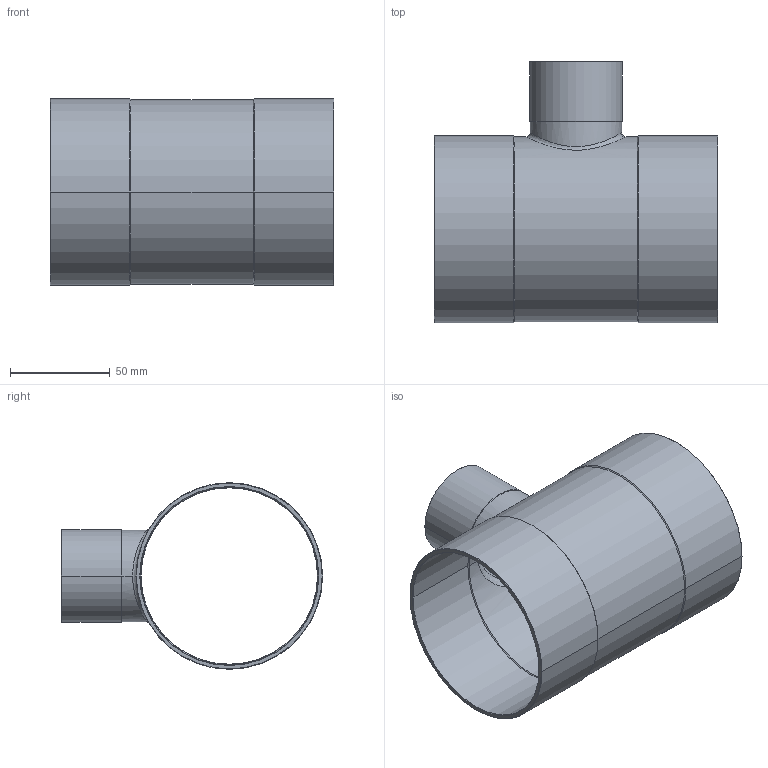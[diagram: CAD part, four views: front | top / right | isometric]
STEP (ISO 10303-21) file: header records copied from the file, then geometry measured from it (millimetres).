
FILE_DESCRIPTION((''),'2;1');
FILE_NAME('G:\Technics\CAD\Bauteile\15130\15130894289.stp','2005-11-02T10:20:03',('boden'),(''),'Autodesk Inventor 8','Autodesk Inventor 8','');
FILE_SCHEMA(('AUTOMOTIVE_DESIGN { 1 0 10303 214 1 1 1 1 }'));
Length unit declared in the file: millimetre
Products named in the file (1): 15130894289
Bounding box: 142 x 130.7 x 93.4 mm (x, y, z)
Volume: 93985.9 mm3; surface area: 90863.8 mm2
Topology: 1 solids, 1 shells, 49 faces, 108 edges, 60 vertices
Faces by surface type: cone 24, cylinder 20, plane 3, bspline 2
Entity records: 1725 total; most frequent: CARTESIAN_POINT 618, DIRECTION 242, ORIENTED_EDGE 216, EDGE_CURVE 108, AXIS2_PLACEMENT_3D 98, VERTEX_POINT 60, EDGE_LOOP 52, CIRCLE 50
